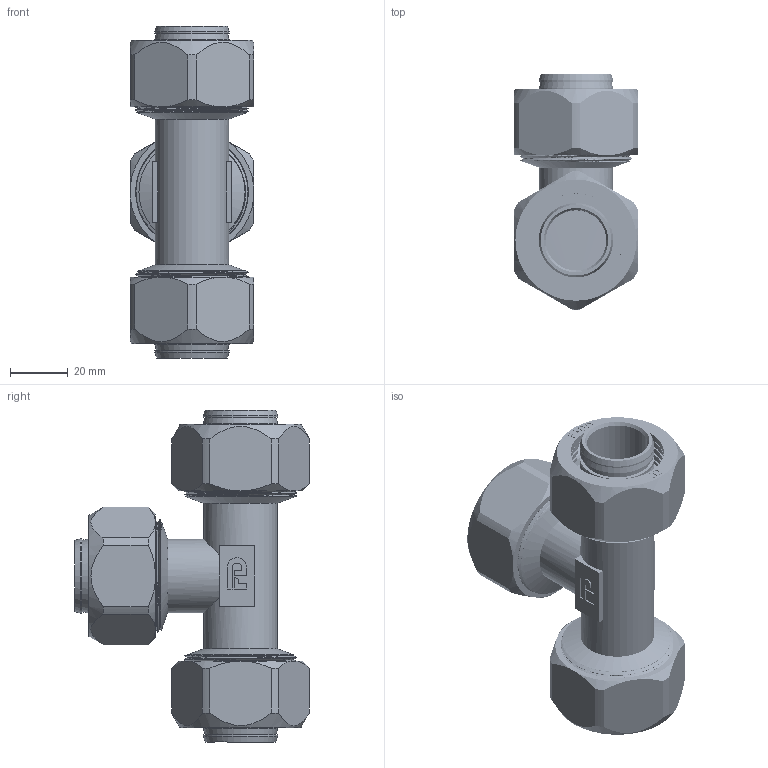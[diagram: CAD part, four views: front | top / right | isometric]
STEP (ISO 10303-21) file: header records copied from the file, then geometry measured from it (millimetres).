
FILE_DESCRIPTION(/* description */ (''),/* implementation_level */ '2;1');
FILE_NAME(/* name */ 'C:\Users\Doom\Desktop\Фадотех\Обжим\RFT35 32 30.03.2020\RFT35 32 30.03.2020.stp',/* time_stamp */ '2022-06-01T15:09:11+03:00',/* author */ ('Doom'),/* organization */ (''),/* preprocessor_version */ 'ST-DEVELOPER v18',/* originating_system */ 'Autodesk Inventor 2020',/* authorisation */ '');
FILE_SCHEMA (('AUTOMOTIVE_DESIGN { 1 0 10303 214 3 1 1 }'));
Length unit declared in the file: millimetre
Products named in the file (5): RFT35 32 30.03.2020; RFT35 32 30.03.2020_1; Olive 20 15.02.2020; FADO MC Socket-32 15.02.2020; FADO MC Nut-32 15.02.2020
Assembly tree (10 placements, depth 2):
  RFT35 32 30.03.2020
    RFT35 32 30.03.2020_1
    Olive 20 15.02.2020  x3
    FADO MC Socket-32 15.02.2020  x3
    FADO MC Nut-32 15.02.2020  x3
Bounding box: 42.8 x 81.45 x 115.1 mm (x, y, z)
Volume: 87828.9 mm3; surface area: 103434.5 mm2
Topology: 16 solids, 16 shells, 1602 faces, 4466 edges, 3015 vertices
Faces by surface type: bspline 806, plane 467, cylinder 253, cone 67, torus 9
Full cylindrical faces by diameter (mm): 21 x3, 21.1 x2, 23.6 x6, 25.5 x2, 25.8 x15, 26 x3, 29.995 x3, 30 x3, 30.5 x3, 32.5 x3, 36.5 x3, 36.776 x4, 37.517 x53, 38.2 x3, 39 x33
Entity records: 48928 total; most frequent: CARTESIAN_POINT 34457, ORIENTED_EDGE 3508, DIRECTION 2061, EDGE_CURVE 1754, VERTEX_POINT 1185, LINE 709, VECTOR 709, B_SPLINE_CURVE_WITH_KNOTS 704
